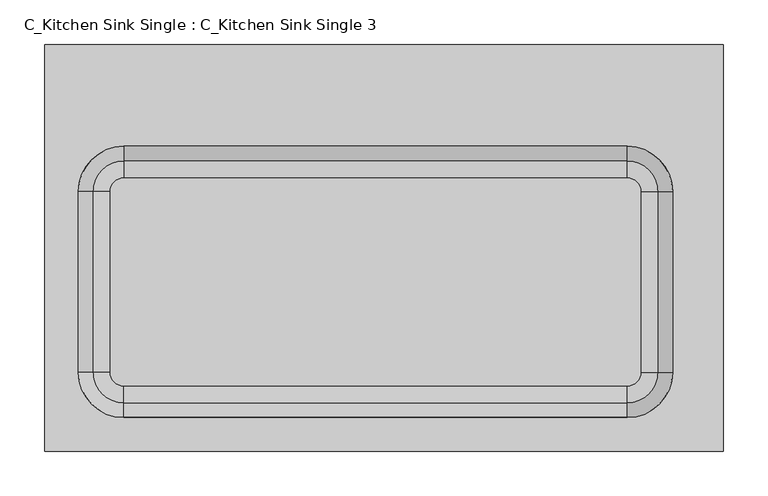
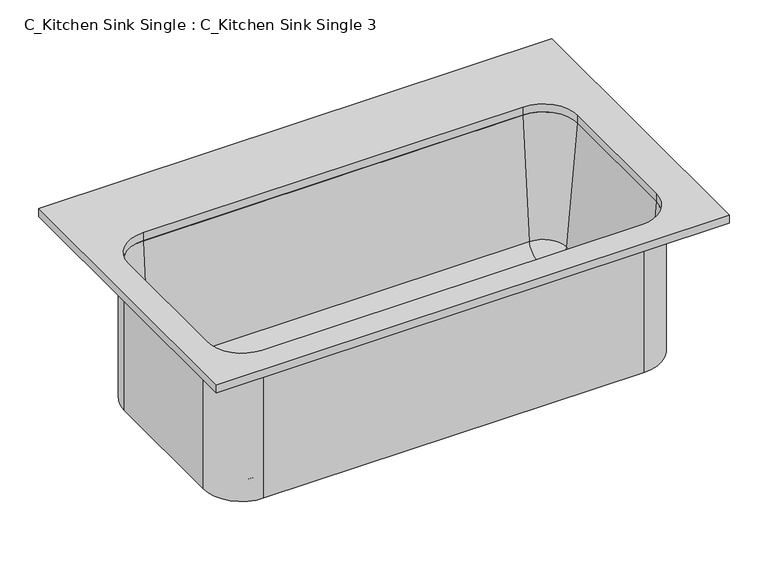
"""IFC4 building model written with IfcOpenShell, lengths in millimetres: flow terminal geometry, C_Kitchen Sink Single : C_Kitchen Sink Single 3."""

from ifc_helpers import new_model, si_unit, point, frame, frame_2d, origin, origin_with_axes, place, context, project, spatial, polyline, circle_curve, ellipse_curve, trimmed, segment, composite_curve, outline, extrude, source, transform, mapped, element, save
from ifc_brep_helpers import plane_surface, cylinder_surface, revolved_surface, advanced_brep


def c_kitchen_sink_single_c_kitchen_sink_single_3_226f43ff(model_context):
    return source(origin(), model_context, "Body", "SolidModel", [
        advanced_brep(
        [(-38.8723412, 65.8454011, -206.375), (-54.1607594, 81.1338193, -206.375), (-619.3107594, 81.1338193, -206.375), (-634.5991776, 65.8454011, -206.375), (-634.5991776, -137.3545989, -206.375), (-619.3107594, -152.6430171, -206.375), (-54.1607594, -152.6430171, -206.375), (-38.8723412, -137.3545989, -206.375), (-676.4607594, 65.8454011, -215.9), (-619.3107594, 122.9954011, -215.9), (-54.1607594, 122.9954011, -215.9), (2.9892406, 65.8454011, -215.9), (2.9892406, -137.3545989, -215.9), (-54.1607594, -194.5045989, -215.9), (-619.3107594, -194.5045989, -215.9), (-676.4607594, -137.3545989, -215.9), (-54.1607594, 122.9954011, 0.0), (2.9892406, 65.8454011, 0.0), (-19.8948322, 65.8454011, -188.9853169), (-54.1607594, 100.1113283, -188.9853169), (-3.3607594, 65.8454011, 0.0), (-54.1607594, 116.6454011, 0.0), (2.9892406, -137.3545989, 0.0), (-19.8948322, -137.3545989, -188.9853169), (-3.3607594, -137.3545989, 0.0), (-54.1607594, -194.5045989, 0.0), (-54.1607594, -171.6205261, -188.9853169), (-54.1607594, -188.1545989, 0.0), (-619.3107594, -194.5045989, 0.0), (-619.3107594, -171.6205261, -188.9853169), (-619.3107594, -188.1545989, 0.0), (-676.4607594, -137.3545989, 0.0), (-653.5766866, -137.3545989, -188.9853169), (-670.1107594, -137.3545989, 0.0), (-676.4607594, 65.8454011, 0.0), (-653.5766866, 65.8454011, -188.9853169), (-670.1107594, 65.8454011, 0.0), (-619.3107594, 122.9954011, 0.0), (-619.3107594, 100.1113283, -188.9853169), (-619.3107594, 116.6454011, 0.0)],
        [
            (0, 1, circle_curve(frame((-54.1607594, 65.8454011, -206.375), z_axis=(0.0, 0.0, 1.0), x_axis=(0.0, 1.0, 0.0)), 15.2884182)),
            (1, 2),
            (2, 3, circle_curve(frame((-619.3107594, 65.8454011, -206.375), z_axis=(0.0, 0.0, 1.0), x_axis=(-1.0, 0.0, 0.0)), 15.2884182)),
            (3, 4),
            (4, 5, circle_curve(frame((-619.3107594, -137.3545989, -206.375), z_axis=(0.0, 0.0, 1.0), x_axis=(0.0, -1.0, 0.0)), 15.2884182)),
            (5, 6),
            (6, 7, circle_curve(frame((-54.1607594, -137.3545989, -206.375), z_axis=(0.0, 0.0, 1.0), x_axis=(1.0, 0.0, 0.0)), 15.2884182)),
            (7, 0),
            (8, 9, circle_curve(frame((-619.3107594, 65.8454011, -215.9), z_axis=(0.0, 0.0, -1.0), x_axis=(-1.0, 0.0, 0.0)), 57.15)),
            (9, 10),
            (10, 11, circle_curve(frame((-54.1607594, 65.8454011, -215.9), z_axis=(0.0, 0.0, -1.0), x_axis=(0.0, 1.0, 0.0)), 57.15)),
            (11, 12),
            (12, 13, circle_curve(frame((-54.1607594, -137.3545989, -215.9), z_axis=(0.0, 0.0, -1.0), x_axis=(1.0, 0.0, 0.0)), 57.15)),
            (13, 14),
            (14, 15, circle_curve(frame((-619.3107594, -137.3545989, -215.9), z_axis=(0.0, 0.0, -1.0), x_axis=(0.0, -1.0, 0.0)), 57.15)),
            (15, 8),
            (10, 16),
            (16, 17, circle_curve(frame((-54.1607594, 65.8454011, 0.0), z_axis=(0.0, 0.0, -1.0), x_axis=(0.0, 1.0, 0.0)), 57.15)),
            (17, 11),
            (0, 18, circle_curve(frame((-38.8723412, 65.8454011, -187.325), z_axis=(0.0, -1.0, 0.0), x_axis=(1.0, 0.0, 0.0)), 19.05)),
            (18, 19, circle_curve(frame((-54.1607594, 65.8454011, -188.9853169), z_axis=(0.0, 0.0, 1.0), x_axis=(0.0, 1.0, 0.0)), 34.2659272)),
            (19, 1, circle_curve(frame((-54.1607594, 81.1338193, -187.325), z_axis=(-1.0, 0.0, 0.0), x_axis=(0.0, 1.0, 0.0)), 19.05)),
            (18, 20),
            (20, 21, circle_curve(frame((-54.1607594, 65.8454011, 0.0), z_axis=(0.0, 0.0, 1.0), x_axis=(0.0, 1.0, 0.0)), 50.8)),
            (21, 19),
            (16, 21),
            (20, 17),
            (17, 22),
            (22, 12),
            (7, 23, circle_curve(frame((-38.8723412, -137.3545989, -187.325), z_axis=(0.0, -1.0, 0.0), x_axis=(1.0, 0.0, 0.0)), 19.05)),
            (23, 18),
            (23, 24),
            (24, 20),
            (24, 22),
            (22, 25, circle_curve(frame((-54.1607594, -137.3545989, 0.0), z_axis=(0.0, 0.0, -1.0), x_axis=(1.0, 0.0, 0.0)), 57.15)),
            (25, 13),
            (6, 26, circle_curve(frame((-54.1607594, -152.6430171, -187.325), z_axis=(-1.0, 0.0, 0.0), x_axis=(0.0, -1.0, 0.0)), 19.05)),
            (26, 23, circle_curve(frame((-54.1607594, -137.3545989, -188.9853169), z_axis=(0.0, 0.0, 1.0), x_axis=(1.0, 0.0, 0.0)), 34.2659272)),
            (26, 27),
            (27, 24, circle_curve(frame((-54.1607594, -137.3545989, 0.0), z_axis=(0.0, 0.0, 1.0), x_axis=(1.0, 0.0, 0.0)), 50.8)),
            (27, 25),
            (25, 28),
            (28, 14),
            (5, 29, circle_curve(frame((-619.3107594, -152.6430171, -187.325), z_axis=(-1.0, 0.0, 0.0), x_axis=(0.0, -1.0, 0.0)), 19.05)),
            (29, 26),
            (29, 30),
            (30, 27),
            (30, 28),
            (28, 31, circle_curve(frame((-619.3107594, -137.3545989, 0.0), z_axis=(0.0, 0.0, -1.0), x_axis=(0.0, -1.0, 0.0)), 57.15)),
            (31, 15),
            (4, 32, circle_curve(frame((-634.5991776, -137.3545989, -187.325), z_axis=(0.0, 1.0, 0.0), x_axis=(-1.0, 0.0, 0.0)), 19.05)),
            (32, 29, circle_curve(frame((-619.3107594, -137.3545989, -188.9853169), z_axis=(0.0, 0.0, 1.0), x_axis=(0.0, -1.0, 0.0)), 34.2659272)),
            (32, 33),
            (33, 30, circle_curve(frame((-619.3107594, -137.3545989, 0.0), z_axis=(0.0, 0.0, 1.0), x_axis=(0.0, -1.0, 0.0)), 50.8)),
            (33, 31),
            (31, 34),
            (34, 8),
            (3, 35, circle_curve(frame((-634.5991776, 65.8454011, -187.325), z_axis=(0.0, 1.0, 0.0), x_axis=(-1.0, 0.0, 0.0)), 19.05)),
            (35, 32),
            (35, 36),
            (36, 33),
            (36, 34),
            (34, 37, circle_curve(frame((-619.3107594, 65.8454011, 0.0), z_axis=(0.0, 0.0, -1.0), x_axis=(-1.0, 0.0, 0.0)), 57.15)),
            (37, 9),
            (2, 38, circle_curve(frame((-619.3107594, 81.1338193, -187.325), z_axis=(1.0, 0.0, 0.0), x_axis=(0.0, 1.0, 0.0)), 19.05)),
            (38, 35, circle_curve(frame((-619.3107594, 65.8454011, -188.9853169), z_axis=(0.0, 0.0, 1.0), x_axis=(-1.0, 0.0, 0.0)), 34.2659272)),
            (38, 39),
            (39, 36, circle_curve(frame((-619.3107594, 65.8454011, 0.0), z_axis=(0.0, 0.0, 1.0), x_axis=(-1.0, 0.0, 0.0)), 50.8)),
            (39, 37),
            (37, 16),
            (19, 38),
            (21, 39),
        ],
        [
            plane_surface(frame((-619.3107594, 78.5454011, -206.375), z_axis=(0.0, 0.0, 1.0), x_axis=(-1.0, 0.0, 0.0))),
            plane_surface(frame((-619.3107594, 78.5454011, -215.9), z_axis=(0.0, 0.0, -1.0), x_axis=(1.0, 0.0, 0.0))),
            cylinder_surface(frame((-54.1607594, 65.8454011, 0.0), z_axis=(0.0, 0.0, -1.0), x_axis=(0.0, 1.0, 0.0)), 57.15),
            revolved_surface(trimmed(ellipse_curve(frame((-54.1607594, 81.1338193, -187.325), z_axis=(1.0, 0.0, 0.0), x_axis=(0.0, 1.0, 0.0)), 19.05, 19.05), [point((-54.1607594, 81.1338193, -206.375))], [point((-54.1607594, 100.1113283, -188.9853169))], True, "CARTESIAN"), (-54.1607594, 65.8454011, 0.0), (0.0, 0.0, -1.0)),
            revolved_surface(polyline([(-54.1607594, 100.1113283, -188.9853169), (-54.1607594, 116.6454011, 0.0)]), (-54.1607594, 65.8454011, 0.0), (0.0, 0.0, -1.0)),
            plane_surface(frame((-54.1607594, 65.8454011, 0.0), z_axis=(0.0, 0.0, 1.0), x_axis=(0.0, 1.0, 0.0))),
            plane_surface(frame((2.9892406, 65.8454011, 0.0), z_axis=(1.0, 0.0, 0.0), x_axis=(0.0, -1.0, 0.0))),
            revolved_surface(polyline([(-19.8223412, -137.3545989, -187.325), (-19.8223412, 65.8454011, -187.325)]), (-38.8723412, 65.8454011, -187.325), (0.0, -1.0, 0.0)),
            plane_surface(frame((-19.8948322, 65.8454011, -188.9853169), z_axis=(-0.996194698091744, 0.0, 0.08715574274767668), x_axis=(0.0, -1.0, 0.0))),
            plane_surface(frame((-3.3607594, 65.8454011, 0.0), z_axis=(0.0, 0.0, 1.0), x_axis=(0.0, -1.0, 0.0))),
            cylinder_surface(frame((-54.1607594, -137.3545989, 0.0), z_axis=(0.0, 0.0, -1.0), x_axis=(1.0, 0.0, 0.0)), 57.15),
            revolved_surface(trimmed(ellipse_curve(frame((-38.8723412, -137.3545989, -187.325), z_axis=(0.0, -1.0, 0.0), x_axis=(1.0, 0.0, 0.0)), 19.05, 19.05), [point((-38.8723412, -137.3545989, -206.375))], [point((-19.8948322, -137.3545989, -188.9853169))], True, "CARTESIAN"), (-54.1607594, -137.3545989, 0.0), (0.0, 0.0, -1.0)),
            revolved_surface(polyline([(-19.8948322, -137.3545989, -188.9853169), (-3.3607594, -137.3545989, 0.0)]), (-54.1607594, -137.3545989, 0.0), (0.0, 0.0, -1.0)),
            plane_surface(frame((-54.1607594, -137.3545989, 0.0), z_axis=(0.0, 0.0, 1.0), x_axis=(1.0, 0.0, 0.0))),
            plane_surface(frame((-54.1607594, -194.5045989, 0.0), z_axis=(0.0, -1.0, 0.0), x_axis=(-1.0, 0.0, 0.0))),
            revolved_surface(polyline([(-619.3107594, -171.69301710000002, -187.325), (-54.1607594, -171.69301710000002, -187.325)]), (-54.1607594, -152.6430171, -187.325), (-1.0, 0.0, 0.0)),
            plane_surface(frame((-54.1607594, -171.6205261, -188.9853169), z_axis=(0.0, 0.996194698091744, 0.08715574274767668), x_axis=(-1.0, 0.0, 0.0))),
            plane_surface(frame((-54.1607594, -188.1545989, 0.0), z_axis=(0.0, 0.0, 1.0), x_axis=(-1.0, 0.0, 0.0))),
            cylinder_surface(frame((-619.3107594, -137.3545989, 0.0), z_axis=(0.0, 0.0, -1.0), x_axis=(0.0, -1.0, 0.0)), 57.15),
            revolved_surface(trimmed(ellipse_curve(frame((-619.3107594, -152.6430171, -187.325), z_axis=(-1.0, 0.0, 0.0), x_axis=(0.0, -1.0, 0.0)), 19.05, 19.05), [point((-619.3107594, -152.6430171, -206.375))], [point((-619.3107594, -171.6205261, -188.9853169))], True, "CARTESIAN"), (-619.3107594, -137.3545989, 0.0), (0.0, 0.0, -1.0)),
            revolved_surface(polyline([(-619.3107594, -171.6205261, -188.9853169), (-619.3107594, -188.1545989, 0.0)]), (-619.3107594, -137.3545989, 0.0), (0.0, 0.0, -1.0)),
            plane_surface(frame((-619.3107594, -137.3545989, 0.0), z_axis=(0.0, 0.0, 1.0), x_axis=(0.0, -1.0, 0.0))),
            plane_surface(frame((-676.4607594, -137.3545989, 0.0), z_axis=(-1.0, 0.0, 0.0), x_axis=(0.0, 1.0, 0.0))),
            revolved_surface(polyline([(-653.6491775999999, 65.8454011, -187.325), (-653.6491775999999, -137.3545989, -187.325)]), (-634.5991776, -137.3545989, -187.325), (0.0, 1.0, 0.0)),
            plane_surface(frame((-653.5766866, -137.3545989, -188.9853169), z_axis=(0.996194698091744, 0.0, 0.08715574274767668), x_axis=(0.0, 1.0, 0.0))),
            plane_surface(frame((-670.1107594, -137.3545989, 0.0), z_axis=(0.0, 0.0, 1.0), x_axis=(0.0, 1.0, 0.0))),
            cylinder_surface(frame((-619.3107594, 65.8454011, 0.0), z_axis=(0.0, 0.0, -1.0), x_axis=(-1.0, 0.0, 0.0)), 57.15),
            revolved_surface(trimmed(ellipse_curve(frame((-634.5991776, 65.8454011, -187.325), z_axis=(0.0, 1.0, 0.0), x_axis=(-1.0, 0.0, 0.0)), 19.05, 19.05), [point((-634.5991776, 65.8454011, -206.375))], [point((-653.5766866, 65.8454011, -188.9853169))], True, "CARTESIAN"), (-619.3107594, 65.8454011, 0.0), (0.0, 0.0, -1.0)),
            revolved_surface(polyline([(-653.5766866, 65.8454011, -188.9853169), (-670.1107594, 65.8454011, 0.0)]), (-619.3107594, 65.8454011, 0.0), (0.0, 0.0, -1.0)),
            plane_surface(frame((-619.3107594, 65.8454011, 0.0), z_axis=(0.0, 0.0, 1.0), x_axis=(-1.0, 0.0, 0.0))),
            plane_surface(frame((-619.3107594, 122.9954011, 0.0), z_axis=(0.0, 1.0, 0.0), x_axis=(1.0, 0.0, 0.0))),
            revolved_surface(polyline([(-54.16075939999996, 100.1838193, -187.325), (-619.3107594, 100.1838193, -187.325)]), (-619.3107594, 81.1338193, -187.325), (1.0, 0.0, 0.0)),
            plane_surface(frame((-619.3107594, 100.1113283, -188.9853169), z_axis=(0.0, -0.996194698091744, 0.08715574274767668), x_axis=(1.0, 0.0, 0.0))),
            plane_surface(frame((-619.3107594, 116.6454011, 0.0), z_axis=(0.0, 0.0, 1.0), x_axis=(1.0, 0.0, 0.0))),
        ],
        [
            (0, [[1, 2, 3, 4, 5, 6, 7, 8]]),
            (1, [[9, 10, 11, 12, 13, 14, 15, 16]]),
            (2, [[-11, 17, 18, 19]]),
            (3, [[-1, 20, 21, 22]]),
            (4, [[-21, 23, 24, 25]]),
            (5, [[-18, 26, -24, 27]]),
            (6, [[-19, 28, 29, -12]]),
            (7, [[-20, -8, 30, 31]]),
            (8, [[-23, -31, 32, 33]]),
            (9, [[-27, -33, 34, -28]]),
            (10, [[-29, 35, 36, -13]]),
            (11, [[-30, -7, 37, 38]]),
            (12, [[-32, -38, 39, 40]]),
            (13, [[-34, -40, 41, -35]]),
            (14, [[-36, 42, 43, -14]]),
            (15, [[-37, -6, 44, 45]]),
            (16, [[-39, -45, 46, 47]]),
            (17, [[-41, -47, 48, -42]]),
            (18, [[-43, 49, 50, -15]]),
            (19, [[-44, -5, 51, 52]]),
            (20, [[-46, -52, 53, 54]]),
            (21, [[-48, -54, 55, -49]]),
            (22, [[-50, 56, 57, -16]]),
            (23, [[-51, -4, 58, 59]]),
            (24, [[-53, -59, 60, 61]]),
            (25, [[-55, -61, 62, -56]]),
            (26, [[-57, 63, 64, -9]]),
            (27, [[-58, -3, 65, 66]]),
            (28, [[-60, -66, 67, 68]]),
            (29, [[-62, -68, 69, -63]]),
            (30, [[-17, -10, -64, 70]]),
            (31, [[-22, 71, -65, -2]]),
            (32, [[-25, 72, -67, -71]]),
            (33, [[-26, -70, -69, -72]]),
        ],
    ),
        extrude(outline(polyline([(53.7892406, 230.9454011), (53.7892406, -226.2545989), (-708.2107594, -226.2545989), (-708.2107594, 230.9454011), (53.7892406, 230.9454011)]), holes=[composite_curve([segment(polyline([(-54.1607594, 116.6454011), (-619.3107594, 116.6454011)]), True, "CONTINUOUS"), segment(trimmed(circle_curve(frame_2d((-619.3107594, 65.8454011)), 50.8), [point((-619.3107594, 116.6454011))], [point((-670.1107594, 65.8454011))], True, "CARTESIAN"), True, "CONTINUOUS"), segment(polyline([(-670.1107594, 65.8454011), (-670.1107594, -137.3545989)]), True, "CONTINUOUS"), segment(trimmed(circle_curve(frame_2d((-619.3107594, -137.3545989)), 50.8), [point((-670.1107594, -137.3545989))], [point((-619.3107594, -188.1545989))], True, "CARTESIAN"), True, "CONTINUOUS"), segment(polyline([(-619.3107594, -188.1545989), (-54.1607594, -188.1545989)]), True, "CONTINUOUS"), segment(trimmed(circle_curve(frame_2d((-54.1607594, -137.3545989)), 50.8), [point((-54.1607594, -188.1545989))], [point((-3.3607594, -137.3545989))], True, "CARTESIAN"), True, "CONTINUOUS"), segment(polyline([(-3.3607594, -137.3545989), (-3.3607594, 65.8454011)]), True, "CONTINUOUS"), segment(trimmed(circle_curve(frame_2d((-54.1607594, 65.8454011)), 50.8), [point((-3.3607594, 65.8454011))], [point((-54.1607594, 116.6454011))], True, "CARTESIAN"), True, "CONTINUOUS")], self_intersect=False)]), origin_with_axes(), (0.0, 0.0, 1.0), 12.7),
    ])


if __name__ == "__main__":
    model = new_model("IFC4")
    model_context = context("Model", 3, world=origin())
    ifc_project = project(units=[si_unit("LENGTHUNIT", "METRE", prefix="MILLI")], contexts=[model_context])
    site = spatial("IfcSite", under=ifc_project)
    building = spatial("IfcBuilding", under=site)
    placement = place(None, origin())
    c_kitchen_sink_single_c_kitchen_sink_single_3_shape = c_kitchen_sink_single_c_kitchen_sink_single_3_226f43ff(model_context)
    element("IfcFlowTerminal", 1, ObjectType="C_Kitchen Sink Single : C_Kitchen Sink Single 3", at=placement, inside=building, context=model_context, shape_type="MappedRepresentation", body=[
        mapped(c_kitchen_sink_single_c_kitchen_sink_single_3_shape, transform((0.0, 0.0, 0.0), x_axis=(1.0, 0.0, 0.0), y_axis=(0.0, 1.0, 0.0), z_axis=(0.0, 0.0, 1.0))),
    ])
    save(model, "model.ifc")
